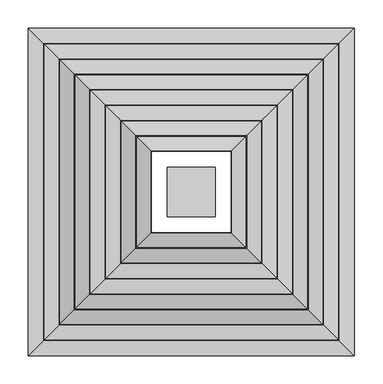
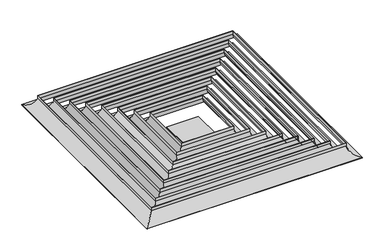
"""IFC4 building model written with IfcOpenShell, lengths in millimetres: air terminal geometry."""

from ifc_helpers import new_model, si_unit, frame, origin, place, context, project, spatial, polyline, ellipse_curve, outline, extrude, source, transform, mapped, element, save
from ifc_brep_helpers import plane_surface, cylinder_surface, revolved_surface, advanced_brep


def air_terminal_6e9eb5b7(model_context):
    return source(origin(), model_context, "Body", "SolidModel", [
        extrude(outline(polyline([(42.0, 335.8125856), (42.0, 249.1874144), (-42.0, 249.1874144), (-42.0, 335.8125856), (42.0, 335.8125856)])), frame((0.0, 0.0, 1.0), z_axis=(0.0, 0.0, 1.0), x_axis=(1.0, 0.0, 0.0)), (0.0, 0.0, 1.0), 1.0025269),
        advanced_brep(
        [(285.6874144, 5.5, 2.0025269), (285.6874144, 5.5, 1.0), (285.6874144, 579.5, 1.0), (285.6874144, 579.5, 2.0025269), (259.0, 32.1874144, 26.77286), (259.0, 552.8125856, 26.77286), (259.0, 32.1874144, 35.0), (259.0, 552.8125856, 35.0), (258.0, 33.1874144, 26.7), (258.0, 33.1874144, 35.0), (258.0, 551.8125856, 35.0), (258.0, 551.8125856, 26.7), (-285.6874144, 579.5, 1.0), (-285.6874144, 579.5, 2.0025269), (-259.0, 552.8125856, 26.77286), (-259.0, 552.8125856, 35.0), (-258.0, 551.8125856, 35.0), (-258.0, 551.8125856, 26.7), (-285.6874144, 5.5, 1.0), (-285.6874144, 5.5, 2.0025269), (-259.0, 32.1874144, 26.77286), (-259.0, 32.1874144, 35.0), (-258.0, 33.1874144, 35.0), (-258.0, 33.1874144, 26.7)],
        [
            (0, 1),
            (1, 2),
            (2, 3),
            (3, 0),
            (4, 0, ellipse_curve(frame((287.7874144, 3.4, 31.0266548), z_axis=(-0.7071067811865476, -0.7071067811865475, 0.0), x_axis=(-0.7071067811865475, 0.7071067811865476, 0.0)), 41.1536147, 29.1)),
            (3, 5, ellipse_curve(frame((287.7874144, 581.6, 31.0266548), z_axis=(-0.7071067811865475, 0.7071067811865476, 0.0), x_axis=(0.7071067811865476, 0.7071067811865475, 0.0)), 41.1536147, 29.1)),
            (5, 4),
            (6, 4),
            (5, 7),
            (7, 6),
            (8, 9),
            (9, 10),
            (10, 11),
            (11, 8),
            (1, 8, ellipse_curve(frame((287.7874144, 3.4, 31.0266548), z_axis=(0.7071067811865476, 0.7071067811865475, 0.0), x_axis=(0.7071067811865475, -0.7071067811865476, 0.0)), 42.5678282, 30.1)),
            (11, 2, ellipse_curve(frame((287.7874144, 581.6, 31.0266548), z_axis=(0.7071067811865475, -0.7071067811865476, 0.0), x_axis=(-0.7071067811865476, -0.7071067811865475, 0.0)), 42.5678282, 30.1)),
            (2, 12),
            (12, 13),
            (13, 3),
            (13, 14, ellipse_curve(frame((-287.7874144, 581.6, 31.0266548), z_axis=(-0.7071067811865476, -0.7071067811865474, 0.0), x_axis=(-0.7071067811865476, 0.7071067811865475, 0.0)), 41.1536147, 29.1)),
            (14, 5),
            (14, 15),
            (15, 7),
            (10, 16),
            (16, 17),
            (17, 11),
            (17, 12, ellipse_curve(frame((-287.7874144, 581.6, 31.0266548), z_axis=(0.7071067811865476, 0.7071067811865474, 0.0), x_axis=(0.7071067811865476, -0.7071067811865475, 0.0)), 42.5678282, 30.1)),
            (12, 18),
            (18, 19),
            (19, 13),
            (19, 20, ellipse_curve(frame((-287.7874144, 3.4, 31.0266548), z_axis=(0.7071067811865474, -0.7071067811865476, 0.0), x_axis=(-0.7071067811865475, -0.7071067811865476, 0.0)), 41.1536147, 29.1)),
            (20, 14),
            (20, 21),
            (21, 15),
            (16, 22),
            (22, 23),
            (23, 17),
            (23, 18, ellipse_curve(frame((-287.7874144, 3.4, 31.0266548), z_axis=(-0.7071067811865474, 0.7071067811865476, 0.0), x_axis=(0.7071067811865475, 0.7071067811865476, 0.0)), 42.5678282, 30.1)),
            (18, 1),
            (0, 19),
            (4, 20),
            (6, 21),
            (9, 22),
            (8, 23),
        ],
        [
            plane_surface(frame((285.6874144, 5.5, 1.0), z_axis=(1.0, 0.0, 0.0), x_axis=(0.0, 1.0, 0.0))),
            revolved_surface(polyline([(258.68741439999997, 610.7000000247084, 31.0266548), (258.68741439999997, -25.700000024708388, 31.0266548)]), (287.7874144, 33.1874144, 31.0266548), (0.0, 1.0, 0.0)),
            plane_surface(frame((259.0, 32.1874144, 26.77286), z_axis=(1.0, 0.0, 0.0), x_axis=(0.0, 1.0, 0.0))),
            plane_surface(frame((258.0, 33.1874144, 35.0), z_axis=(-1.0, 0.0, 0.0), x_axis=(0.0, 1.0, 0.0))),
            cylinder_surface(frame((287.7874144, 33.1874144, 31.0266548), z_axis=(0.0, -1.0, 0.0), x_axis=(-1.0, 0.0, 0.0)), 30.1),
            plane_surface(frame((285.6874144, 579.5, 1.0), z_axis=(0.0, 1.0, 0.0), x_axis=(-1.0, 0.0, 0.0))),
            revolved_surface(polyline([(-316.88741442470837, 552.5, 31.0266548), (316.88741442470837, 552.5, 31.0266548)]), (258.0, 581.6, 31.0266548), (-1.0, 0.0, 0.0)),
            plane_surface(frame((259.0, 552.8125856, 26.77286), z_axis=(0.0, 1.0, 0.0), x_axis=(-1.0, 0.0, 0.0))),
            plane_surface(frame((258.0, 551.8125856, 35.0), z_axis=(0.0, -1.0, 0.0), x_axis=(-1.0, 0.0, 0.0))),
            cylinder_surface(frame((258.0, 581.6, 31.0266548), z_axis=(1.0, 0.0, 0.0), x_axis=(0.0, -1.0, 0.0)), 30.1),
            plane_surface(frame((-285.6874144, 579.5, 1.0), z_axis=(-1.0, 0.0, 0.0), x_axis=(0.0, -1.0, 0.0))),
            revolved_surface(polyline([(-258.68741439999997, -25.7000000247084, 31.0266548), (-258.68741439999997, 610.7000000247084, 31.0266548)]), (-287.7874144, 551.8125856, 31.0266548), (0.0, -1.0, 0.0)),
            plane_surface(frame((-259.0, 552.8125856, 26.77286), z_axis=(-1.0, 0.0, 0.0), x_axis=(0.0, -1.0, 0.0))),
            plane_surface(frame((-258.0, 551.8125856, 35.0), z_axis=(1.0, 0.0, 0.0), x_axis=(0.0, -1.0, 0.0))),
            cylinder_surface(frame((-287.7874144, 551.8125856, 31.0266548), z_axis=(0.0, 1.0, 0.0), x_axis=(1.0, 0.0, 0.0)), 30.1),
            plane_surface(frame((-285.6874144, 5.5, 1.0), z_axis=(0.0, -1.0, 0.0), x_axis=(1.0, 0.0, 0.0))),
            revolved_surface(polyline([(316.88741442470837, 32.5, 31.0266548), (-316.88741442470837, 32.5, 31.0266548)]), (-258.0, 3.4, 31.0266548), (1.0, 0.0, 0.0)),
            plane_surface(frame((-259.0, 32.1874144, 26.77286), z_axis=(0.0, -1.0, 0.0), x_axis=(1.0, 0.0, 0.0))),
            plane_surface(frame((-259.0, 32.1874144, 35.0), z_axis=(0.0, 0.0, 1.0), x_axis=(1.0, 0.0, 0.0))),
            plane_surface(frame((-258.0, 33.1874144, 35.0), z_axis=(0.0, 1.0, 0.0), x_axis=(1.0, 0.0, 0.0))),
            cylinder_surface(frame((-258.0, 3.4, 31.0266548), z_axis=(-1.0, 0.0, 0.0), x_axis=(0.0, 1.0, 0.0)), 30.1),
        ],
        [
            (0, [[1, 2, 3, 4]]),
            (1, [[5, -4, 6, 7]]),
            (2, [[8, -7, 9, 10]]),
            (3, [[11, 12, 13, 14]]),
            (4, [[15, -14, 16, -2]]),
            (5, [[-3, 17, 18, 19]]),
            (6, [[-6, -19, 20, 21]]),
            (7, [[-9, -21, 22, 23]]),
            (8, [[-13, 24, 25, 26]]),
            (9, [[-16, -26, 27, -17]]),
            (10, [[-18, 28, 29, 30]]),
            (11, [[-20, -30, 31, 32]]),
            (12, [[-22, -32, 33, 34]]),
            (13, [[-25, 35, 36, 37]]),
            (14, [[-27, -37, 38, -28]]),
            (15, [[-29, 39, -1, 40]]),
            (16, [[-31, -40, -5, 41]]),
            (17, [[-33, -41, -8, 42]]),
            (18, [[-23, -34, -42, -10], [43, -35, -24, -12]]),
            (19, [[-36, -43, -11, 44]]),
            (20, [[-38, -44, -15, -39]]),
        ],
    ),
        advanced_brep(
        [(-258.6874144, 552.5, 2.0025269), (-258.6874144, 552.5, 1.0), (-258.6874144, 32.5, 1.0), (-258.6874144, 32.5, 2.0025269), (-232.0, 525.8125856, 26.77286), (-232.0, 59.1874144, 26.77286), (-232.0, 525.8125856, 35.0), (-232.0, 59.1874144, 35.0), (-231.0, 524.8125856, 26.7), (-231.0, 524.8125856, 35.0), (-231.0, 60.1874144, 35.0), (-231.0, 60.1874144, 26.7), (258.6874144, 32.5, 1.0), (258.6874144, 32.5, 2.0025269), (232.0, 59.1874144, 26.77286), (232.0, 59.1874144, 35.0), (231.0, 60.1874144, 35.0), (231.0, 60.1874144, 26.7), (258.6874144, 552.5, 1.0), (258.6874144, 552.5, 2.0025269), (232.0, 525.8125856, 26.77286), (232.0, 525.8125856, 35.0), (231.0, 524.8125856, 35.0), (231.0, 524.8125856, 26.7)],
        [
            (0, 1),
            (1, 2),
            (2, 3),
            (3, 0),
            (4, 0, ellipse_curve(frame((-260.7874144, 554.6, 31.0266548), z_axis=(0.7071067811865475, 0.7071067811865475, 0.0), x_axis=(0.7071067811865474, -0.7071067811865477, 0.0)), 41.1536147, 29.1)),
            (3, 5, ellipse_curve(frame((-260.7874144, 30.4, 31.0266548), z_axis=(0.7071067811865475, -0.7071067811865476, 0.0), x_axis=(-0.7071067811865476, -0.7071067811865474, 0.0)), 41.1536147, 29.1)),
            (5, 4),
            (6, 4),
            (5, 7),
            (7, 6),
            (8, 9),
            (9, 10),
            (10, 11),
            (11, 8),
            (1, 8, ellipse_curve(frame((-260.7874144, 554.6, 31.0266548), z_axis=(-0.7071067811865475, -0.7071067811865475, 0.0), x_axis=(-0.7071067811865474, 0.7071067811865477, 0.0)), 42.5678282, 30.1)),
            (11, 2, ellipse_curve(frame((-260.7874144, 30.4, 31.0266548), z_axis=(-0.7071067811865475, 0.7071067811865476, 0.0), x_axis=(0.7071067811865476, 0.7071067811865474, 0.0)), 42.5678282, 30.1)),
            (2, 12),
            (12, 13),
            (13, 3),
            (13, 14, ellipse_curve(frame((260.7874144, 30.4, 31.0266548), z_axis=(0.7071067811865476, 0.7071067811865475, 0.0), x_axis=(0.7071067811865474, -0.7071067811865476, 0.0)), 41.1536147, 29.1)),
            (14, 5),
            (14, 15),
            (15, 7),
            (10, 16),
            (16, 17),
            (17, 11),
            (17, 12, ellipse_curve(frame((260.7874144, 30.4, 31.0266548), z_axis=(-0.7071067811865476, -0.7071067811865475, 0.0), x_axis=(-0.7071067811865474, 0.7071067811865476, 0.0)), 42.5678282, 30.1)),
            (12, 18),
            (18, 19),
            (19, 13),
            (19, 20, ellipse_curve(frame((260.7874144, 554.6, 31.0266548), z_axis=(-0.7071067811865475, 0.7071067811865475, 0.0), x_axis=(0.7071067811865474, 0.7071067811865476, 0.0)), 41.1536147, 29.1)),
            (20, 14),
            (20, 21),
            (21, 15),
            (16, 22),
            (22, 23),
            (23, 17),
            (23, 18, ellipse_curve(frame((260.7874144, 554.6, 31.0266548), z_axis=(0.7071067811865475, -0.7071067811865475, 0.0), x_axis=(-0.7071067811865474, -0.7071067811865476, 0.0)), 42.5678282, 30.1)),
            (18, 1),
            (0, 19),
            (4, 20),
            (6, 21),
            (9, 22),
            (8, 23),
        ],
        [
            plane_surface(frame((-258.6874144, 552.5, 1.0), z_axis=(-1.0, 0.0, 0.0), x_axis=(0.0, -1.0, 0.0))),
            revolved_surface(polyline([(-231.6874144, 1.2999999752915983, 31.0266548), (-231.6874144, 583.7000000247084, 31.0266548)]), (-260.7874144, 524.8125856, 31.0266548), (0.0, -1.0, 0.0)),
            plane_surface(frame((-232.0, 525.8125856, 26.77286), z_axis=(-1.0, 0.0, 0.0), x_axis=(0.0, -1.0, 0.0))),
            plane_surface(frame((-231.0, 524.8125856, 35.0), z_axis=(1.0, 0.0, 0.0), x_axis=(0.0, -1.0, 0.0))),
            cylinder_surface(frame((-260.7874144, 524.8125856, 31.0266548), z_axis=(0.0, 1.0, 0.0), x_axis=(1.0, 0.0, 0.0)), 30.1),
            plane_surface(frame((-258.6874144, 32.5, 1.0), z_axis=(0.0, -1.0, 0.0), x_axis=(1.0, 0.0, 0.0))),
            revolved_surface(polyline([(289.88741442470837, 59.5, 31.0266548), (-289.88741442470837, 59.5, 31.0266548)]), (-231.0, 30.4, 31.0266548), (1.0, 0.0, 0.0)),
            plane_surface(frame((-232.0, 59.1874144, 26.77286), z_axis=(0.0, -1.0, 0.0), x_axis=(1.0, 0.0, 0.0))),
            plane_surface(frame((-231.0, 60.1874144, 35.0), z_axis=(0.0, 1.0, 0.0), x_axis=(1.0, 0.0, 0.0))),
            cylinder_surface(frame((-231.0, 30.4, 31.0266548), z_axis=(-1.0, 0.0, 0.0), x_axis=(0.0, 1.0, 0.0)), 30.1),
            plane_surface(frame((258.6874144, 32.5, 1.0), z_axis=(1.0, 0.0, 0.0), x_axis=(0.0, 1.0, 0.0))),
            revolved_surface(polyline([(231.6874144, 583.7000000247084, 31.0266548), (231.6874144, 1.2999999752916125, 31.0266548)]), (260.7874144, 60.1874144, 31.0266548), (0.0, 1.0, 0.0)),
            plane_surface(frame((232.0, 59.1874144, 26.77286), z_axis=(1.0, 0.0, 0.0), x_axis=(0.0, 1.0, 0.0))),
            plane_surface(frame((231.0, 60.1874144, 35.0), z_axis=(-1.0, 0.0, 0.0), x_axis=(0.0, 1.0, 0.0))),
            cylinder_surface(frame((260.7874144, 60.1874144, 31.0266548), z_axis=(0.0, -1.0, 0.0), x_axis=(-1.0, 0.0, 0.0)), 30.1),
            plane_surface(frame((258.6874144, 552.5, 1.0), z_axis=(0.0, 1.0, 0.0), x_axis=(-1.0, 0.0, 0.0))),
            revolved_surface(polyline([(-289.88741442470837, 525.5, 31.0266548), (289.88741442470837, 525.5, 31.0266548)]), (231.0, 554.6, 31.0266548), (-1.0, 0.0, 0.0)),
            plane_surface(frame((232.0, 525.8125856, 26.77286), z_axis=(0.0, 1.0, 0.0), x_axis=(-1.0, 0.0, 0.0))),
            plane_surface(frame((232.0, 525.8125856, 35.0), z_axis=(0.0, 0.0, 1.0), x_axis=(-1.0, 0.0, 0.0))),
            plane_surface(frame((231.0, 524.8125856, 35.0), z_axis=(0.0, -1.0, 0.0), x_axis=(-1.0, 0.0, 0.0))),
            cylinder_surface(frame((231.0, 554.6, 31.0266548), z_axis=(1.0, 0.0, 0.0), x_axis=(0.0, -1.0, 0.0)), 30.1),
        ],
        [
            (0, [[1, 2, 3, 4]]),
            (1, [[5, -4, 6, 7]]),
            (2, [[8, -7, 9, 10]]),
            (3, [[11, 12, 13, 14]]),
            (4, [[15, -14, 16, -2]]),
            (5, [[-3, 17, 18, 19]]),
            (6, [[-6, -19, 20, 21]]),
            (7, [[-9, -21, 22, 23]]),
            (8, [[-13, 24, 25, 26]]),
            (9, [[-16, -26, 27, -17]]),
            (10, [[-18, 28, 29, 30]]),
            (11, [[-20, -30, 31, 32]]),
            (12, [[-22, -32, 33, 34]]),
            (13, [[-25, 35, 36, 37]]),
            (14, [[-27, -37, 38, -28]]),
            (15, [[-29, 39, -1, 40]]),
            (16, [[-31, -40, -5, 41]]),
            (17, [[-33, -41, -8, 42]]),
            (18, [[-23, -34, -42, -10], [43, -35, -24, -12]]),
            (19, [[-36, -43, -11, 44]]),
            (20, [[-38, -44, -15, -39]]),
        ],
    ),
        advanced_brep(
        [(204.0, 497.8125856, 26.7), (231.6874144, 525.5, 1.0), (231.6874144, 59.5, 1.0), (204.0, 87.1874144, 26.7), (204.0, 497.8125856, 35.0), (204.0, 87.1874144, 35.0), (205.0, 498.8125856, 26.77286), (205.0, 498.8125856, 35.0), (205.0, 86.1874144, 35.0), (205.0, 86.1874144, 26.77286), (231.6874144, 525.5, 2.0025269), (231.6874144, 59.5, 2.0025269), (-231.6874144, 59.5, 1.0), (-204.0, 87.1874144, 26.7), (-204.0, 87.1874144, 35.0), (-205.0, 86.1874144, 35.0), (-205.0, 86.1874144, 26.77286), (-231.6874144, 59.5, 2.0025269), (-231.6874144, 525.5, 1.0), (-204.0, 497.8125856, 26.7), (-204.0, 497.8125856, 35.0), (-205.0, 498.8125856, 35.0), (-205.0, 498.8125856, 26.77286), (-231.6874144, 525.5, 2.0025269)],
        [
            (0, 1, ellipse_curve(frame((233.7874144, 527.6, 31.0266548), z_axis=(0.7071067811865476, -0.7071067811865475, 0.0), x_axis=(0.7071067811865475, 0.7071067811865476, 0.0)), 42.5678282, 30.1)),
            (1, 2),
            (2, 3, ellipse_curve(frame((233.7874144, 57.4, 31.0266548), z_axis=(0.7071067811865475, 0.7071067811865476, 0.0), x_axis=(-0.7071067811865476, 0.7071067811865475, 0.0)), 42.5678282, 30.1)),
            (3, 0),
            (4, 0),
            (3, 5),
            (5, 4),
            (6, 7),
            (7, 8),
            (8, 9),
            (9, 6),
            (10, 6, ellipse_curve(frame((233.7874144, 527.6, 31.0266548), z_axis=(-0.7071067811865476, 0.7071067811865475, 0.0), x_axis=(-0.7071067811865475, -0.7071067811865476, 0.0)), 41.1536147, 29.1)),
            (9, 11, ellipse_curve(frame((233.7874144, 57.4, 31.0266548), z_axis=(-0.7071067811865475, -0.7071067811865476, 0.0), x_axis=(0.7071067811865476, -0.7071067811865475, 0.0)), 41.1536147, 29.1)),
            (11, 10),
            (1, 10),
            (11, 2),
            (2, 12),
            (12, 13, ellipse_curve(frame((-233.7874144, 57.4, 31.0266548), z_axis=(0.7071067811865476, -0.7071067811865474, 0.0), x_axis=(0.7071067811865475, 0.7071067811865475, 0.0)), 42.5678282, 30.1)),
            (13, 3),
            (13, 14),
            (14, 5),
            (8, 15),
            (15, 16),
            (16, 9),
            (16, 17, ellipse_curve(frame((-233.7874144, 57.4, 31.0266548), z_axis=(-0.7071067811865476, 0.7071067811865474, 0.0), x_axis=(-0.7071067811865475, -0.7071067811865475, 0.0)), 41.1536147, 29.1)),
            (17, 11),
            (17, 12),
            (12, 18),
            (18, 19, ellipse_curve(frame((-233.7874144, 527.6, 31.0266548), z_axis=(-0.7071067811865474, -0.7071067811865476, 0.0), x_axis=(0.7071067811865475, -0.7071067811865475, 0.0)), 42.5678282, 30.1)),
            (19, 13),
            (19, 20),
            (20, 14),
            (15, 21),
            (21, 22),
            (22, 16),
            (22, 23, ellipse_curve(frame((-233.7874144, 527.6, 31.0266548), z_axis=(0.7071067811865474, 0.7071067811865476, 0.0), x_axis=(-0.7071067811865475, 0.7071067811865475, 0.0)), 41.1536147, 29.1)),
            (23, 17),
            (23, 18),
            (18, 1),
            (0, 19),
            (4, 20),
            (7, 21),
            (6, 22),
            (10, 23),
        ],
        [
            cylinder_surface(frame((233.7874144, 497.8125856, 31.0266548), z_axis=(0.0, 1.0, 0.0), x_axis=(1.0, 0.0, 0.0)), 30.1),
            plane_surface(frame((204.0, 497.8125856, 26.7), z_axis=(-1.0, 0.0, 0.0), x_axis=(0.0, -1.0, 0.0))),
            plane_surface(frame((205.0, 498.8125856, 35.0), z_axis=(1.0, 0.0, 0.0), x_axis=(0.0, -1.0, 0.0))),
            revolved_surface(polyline([(262.8874144, 28.2999999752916, 31.0266548), (262.8874144, 556.7000000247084, 31.0266548)]), (233.7874144, 497.8125856, 31.0266548), (0.0, -1.0, 0.0)),
            plane_surface(frame((231.6874144, 525.5, 2.0025269), z_axis=(1.0, 0.0, 0.0), x_axis=(0.0, -1.0, 0.0))),
            cylinder_surface(frame((204.0, 57.4, 31.0266548), z_axis=(1.0, 0.0, 0.0), x_axis=(0.0, -1.0, 0.0)), 30.1),
            plane_surface(frame((204.0, 87.1874144, 26.7), z_axis=(0.0, 1.0, 0.0), x_axis=(-1.0, 0.0, 0.0))),
            plane_surface(frame((205.0, 86.1874144, 35.0), z_axis=(0.0, -1.0, 0.0), x_axis=(-1.0, 0.0, 0.0))),
            revolved_surface(polyline([(-262.88741442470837, 28.299999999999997, 31.0266548), (262.88741442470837, 28.299999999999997, 31.0266548)]), (204.0, 57.4, 31.0266548), (-1.0, 0.0, 0.0)),
            plane_surface(frame((231.6874144, 59.5, 2.0025269), z_axis=(0.0, -1.0, 0.0), x_axis=(-1.0, 0.0, 0.0))),
            cylinder_surface(frame((-233.7874144, 87.1874144, 31.0266548), z_axis=(0.0, -1.0, 0.0), x_axis=(-1.0, 0.0, 0.0)), 30.1),
            plane_surface(frame((-204.0, 87.1874144, 26.7), z_axis=(1.0, 0.0, 0.0), x_axis=(0.0, 1.0, 0.0))),
            plane_surface(frame((-205.0, 86.1874144, 35.0), z_axis=(-1.0, 0.0, 0.0), x_axis=(0.0, 1.0, 0.0))),
            revolved_surface(polyline([(-262.8874144, 556.7000000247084, 31.0266548), (-262.8874144, 28.299999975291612, 31.0266548)]), (-233.7874144, 87.1874144, 31.0266548), (0.0, 1.0, 0.0)),
            plane_surface(frame((-231.6874144, 59.5, 2.0025269), z_axis=(-1.0, 0.0, 0.0), x_axis=(0.0, 1.0, 0.0))),
            cylinder_surface(frame((-204.0, 527.6, 31.0266548), z_axis=(-1.0, 0.0, 0.0), x_axis=(0.0, 1.0, 0.0)), 30.1),
            plane_surface(frame((-204.0, 497.8125856, 26.7), z_axis=(0.0, -1.0, 0.0), x_axis=(1.0, 0.0, 0.0))),
            plane_surface(frame((-204.0, 497.8125856, 35.0), z_axis=(0.0, 0.0, 1.0), x_axis=(1.0, 0.0, 0.0))),
            plane_surface(frame((-205.0, 498.8125856, 35.0), z_axis=(0.0, 1.0, 0.0), x_axis=(1.0, 0.0, 0.0))),
            revolved_surface(polyline([(262.88741442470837, 556.7, 31.0266548), (-262.88741442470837, 556.7, 31.0266548)]), (-204.0, 527.6, 31.0266548), (1.0, 0.0, 0.0)),
            plane_surface(frame((-231.6874144, 525.5, 2.0025269), z_axis=(0.0, 1.0, 0.0), x_axis=(1.0, 0.0, 0.0))),
        ],
        [
            (0, [[1, 2, 3, 4]]),
            (1, [[5, -4, 6, 7]]),
            (2, [[8, 9, 10, 11]]),
            (3, [[12, -11, 13, 14]]),
            (4, [[15, -14, 16, -2]]),
            (5, [[-3, 17, 18, 19]]),
            (6, [[-6, -19, 20, 21]]),
            (7, [[-10, 22, 23, 24]]),
            (8, [[-13, -24, 25, 26]]),
            (9, [[-16, -26, 27, -17]]),
            (10, [[-18, 28, 29, 30]]),
            (11, [[-20, -30, 31, 32]]),
            (12, [[-23, 33, 34, 35]]),
            (13, [[-25, -35, 36, 37]]),
            (14, [[-27, -37, 38, -28]]),
            (15, [[-29, 39, -1, 40]]),
            (16, [[-31, -40, -5, 41]]),
            (17, [[42, -33, -22, -9], [-21, -32, -41, -7]]),
            (18, [[-34, -42, -8, 43]]),
            (19, [[-36, -43, -12, 44]]),
            (20, [[-38, -44, -15, -39]]),
        ],
    ),
        advanced_brep(
        [(177.0, 470.8125856, 26.7), (204.6874144, 498.5, 1.0), (204.6874144, 86.5, 1.0), (177.0, 114.1874144, 26.7), (177.0, 470.8125856, 35.0), (177.0, 114.1874144, 35.0), (178.0, 471.8125856, 26.77286), (178.0, 471.8125856, 35.0), (178.0, 113.1874144, 35.0), (178.0, 113.1874144, 26.77286), (204.6874144, 498.5, 2.0025269), (204.6874144, 86.5, 2.0025269), (-204.6874144, 86.5, 1.0), (-177.0, 114.1874144, 26.7), (-177.0, 114.1874144, 35.0), (-178.0, 113.1874144, 35.0), (-178.0, 113.1874144, 26.77286), (-204.6874144, 86.5, 2.0025269), (-204.6874144, 498.5, 1.0), (-177.0, 470.8125856, 26.7), (-177.0, 470.8125856, 35.0), (-178.0, 471.8125856, 35.0), (-178.0, 471.8125856, 26.77286), (-204.6874144, 498.5, 2.0025269)],
        [
            (0, 1, ellipse_curve(frame((206.7874144, 500.6, 31.0266548), z_axis=(0.7071067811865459, -0.7071067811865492, 0.0), x_axis=(0.7071067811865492, 0.7071067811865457, 0.0)), 42.5678282, 30.1)),
            (1, 2),
            (2, 3, ellipse_curve(frame((206.7874144, 84.4, 31.0266548), z_axis=(0.7071067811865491, 0.7071067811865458, 0.0), x_axis=(-0.7071067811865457, 0.7071067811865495, 0.0)), 42.5678282, 30.1)),
            (3, 0),
            (4, 0),
            (3, 5),
            (5, 4),
            (6, 7),
            (7, 8),
            (8, 9),
            (9, 6),
            (10, 6, ellipse_curve(frame((206.7874144, 500.6, 31.0266548), z_axis=(-0.7071067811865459, 0.7071067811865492, 0.0), x_axis=(-0.7071067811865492, -0.7071067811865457, 0.0)), 41.1536147, 29.1)),
            (9, 11, ellipse_curve(frame((206.7874144, 84.4, 31.0266548), z_axis=(-0.7071067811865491, -0.7071067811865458, 0.0), x_axis=(0.7071067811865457, -0.7071067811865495, 0.0)), 41.1536147, 29.1)),
            (11, 10),
            (1, 10),
            (11, 2),
            (2, 12),
            (12, 13, ellipse_curve(frame((-206.7874144, 84.4, 31.0266548), z_axis=(0.7071067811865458, -0.7071067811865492, 0.0), x_axis=(0.7071067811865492, 0.7071067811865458, 0.0)), 42.5678282, 30.1)),
            (13, 3),
            (13, 14),
            (14, 5),
            (8, 15),
            (15, 16),
            (16, 9),
            (16, 17, ellipse_curve(frame((-206.7874144, 84.4, 31.0266548), z_axis=(-0.7071067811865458, 0.7071067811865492, 0.0), x_axis=(-0.7071067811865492, -0.7071067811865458, 0.0)), 41.1536147, 29.1)),
            (17, 11),
            (17, 12),
            (12, 18),
            (18, 19, ellipse_curve(frame((-206.7874144, 500.6, 31.0266548), z_axis=(-0.7071067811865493, -0.7071067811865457, 0.0), x_axis=(0.7071067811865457, -0.7071067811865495, 0.0)), 42.5678282, 30.1)),
            (19, 13),
            (19, 20),
            (20, 14),
            (15, 21),
            (21, 22),
            (22, 16),
            (22, 23, ellipse_curve(frame((-206.7874144, 500.6, 31.0266548), z_axis=(0.7071067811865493, 0.7071067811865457, 0.0), x_axis=(-0.7071067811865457, 0.7071067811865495, 0.0)), 41.1536147, 29.1)),
            (23, 17),
            (23, 18),
            (18, 1),
            (0, 19),
            (4, 20),
            (7, 21),
            (6, 22),
            (10, 23),
        ],
        [
            cylinder_surface(frame((206.7874144, 470.8125856, 31.0266548), z_axis=(0.0, 1.0, 0.0), x_axis=(1.0, 0.0, 0.0)), 30.1),
            plane_surface(frame((177.0, 470.8125856, 26.7), z_axis=(-1.0, 0.0, 0.0), x_axis=(0.0, -1.0, 0.0))),
            plane_surface(frame((178.0, 471.8125856, 35.0), z_axis=(1.0, 0.0, 0.0), x_axis=(0.0, -1.0, 0.0))),
            revolved_surface(polyline([(235.88741439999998, 55.29999997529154, 31.0266548), (235.88741439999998, 529.7000000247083, 31.0266548)]), (206.7874144, 470.8125856, 31.0266548), (0.0, -1.0, 0.0)),
            plane_surface(frame((204.6874144, 498.5, 2.0025269), z_axis=(1.0, 0.0, 0.0), x_axis=(0.0, -1.0, 0.0))),
            cylinder_surface(frame((177.0, 84.4, 31.0266548), z_axis=(1.0, 0.0, 0.0), x_axis=(0.0, -1.0, 0.0)), 30.1),
            plane_surface(frame((177.0, 114.1874144, 26.7), z_axis=(0.0, 1.0, 0.0), x_axis=(-1.0, 0.0, 0.0))),
            plane_surface(frame((178.0, 113.1874144, 35.0), z_axis=(0.0, -1.0, 0.0), x_axis=(-1.0, 0.0, 0.0))),
            revolved_surface(polyline([(-235.88741442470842, 55.300000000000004, 31.0266548), (235.8874144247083, 55.300000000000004, 31.0266548)]), (177.0, 84.4, 31.0266548), (-1.0, 0.0, 0.0)),
            plane_surface(frame((204.6874144, 86.5, 2.0025269), z_axis=(0.0, -1.0, 0.0), x_axis=(-1.0, 0.0, 0.0))),
            cylinder_surface(frame((-206.7874144, 114.1874144, 31.0266548), z_axis=(0.0, -1.0, 0.0), x_axis=(-1.0, 0.0, 0.0)), 30.1),
            plane_surface(frame((-177.0, 114.1874144, 26.7), z_axis=(1.0, 0.0, 0.0), x_axis=(0.0, 1.0, 0.0))),
            plane_surface(frame((-178.0, 113.1874144, 35.0), z_axis=(-1.0, 0.0, 0.0), x_axis=(0.0, 1.0, 0.0))),
            revolved_surface(polyline([(-235.88741439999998, 529.7000000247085, 31.0266548), (-235.88741439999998, 55.29999997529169, 31.0266548)]), (-206.7874144, 114.1874144, 31.0266548), (0.0, 1.0, 0.0)),
            plane_surface(frame((-204.6874144, 86.5, 2.0025269), z_axis=(-1.0, 0.0, 0.0), x_axis=(0.0, 1.0, 0.0))),
            cylinder_surface(frame((-177.0, 500.6, 31.0266548), z_axis=(-1.0, 0.0, 0.0), x_axis=(0.0, 1.0, 0.0)), 30.1),
            plane_surface(frame((-177.0, 470.8125856, 26.7), z_axis=(0.0, -1.0, 0.0), x_axis=(1.0, 0.0, 0.0))),
            plane_surface(frame((-177.0, 470.8125856, 35.0), z_axis=(0.0, 0.0, 1.0), x_axis=(1.0, 0.0, 0.0))),
            plane_surface(frame((-178.0, 471.8125856, 35.0), z_axis=(0.0, 1.0, 0.0), x_axis=(1.0, 0.0, 0.0))),
            revolved_surface(polyline([(235.88741442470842, 529.7, 31.0266548), (-235.8874144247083, 529.7, 31.0266548)]), (-177.0, 500.6, 31.0266548), (1.0, 0.0, 0.0)),
            plane_surface(frame((-204.6874144, 498.5, 2.0025269), z_axis=(0.0, 1.0, 0.0), x_axis=(1.0, 0.0, 0.0))),
        ],
        [
            (0, [[1, 2, 3, 4]]),
            (1, [[5, -4, 6, 7]]),
            (2, [[8, 9, 10, 11]]),
            (3, [[12, -11, 13, 14]]),
            (4, [[15, -14, 16, -2]]),
            (5, [[-3, 17, 18, 19]]),
            (6, [[-6, -19, 20, 21]]),
            (7, [[-10, 22, 23, 24]]),
            (8, [[-13, -24, 25, 26]]),
            (9, [[-16, -26, 27, -17]]),
            (10, [[-18, 28, 29, 30]]),
            (11, [[-20, -30, 31, 32]]),
            (12, [[-23, 33, 34, 35]]),
            (13, [[-25, -35, 36, 37]]),
            (14, [[-27, -37, 38, -28]]),
            (15, [[-29, 39, -1, 40]]),
            (16, [[-31, -40, -5, 41]]),
            (17, [[42, -33, -22, -9], [-21, -32, -41, -7]]),
            (18, [[-34, -42, -8, 43]]),
            (19, [[-36, -43, -12, 44]]),
            (20, [[-38, -44, -15, -39]]),
        ],
    ),
        advanced_brep(
        [(-150.5879226, 444.5, 2.0025269), (-150.5879226, 444.5, 1.0), (-150.5879226, 140.5994918, 1.0), (-150.5879226, 140.5994918, 2.0025269), (-123.9005082, 417.8125856, 26.77286), (-123.9005082, 167.2869062, 26.77286), (-123.9005082, 417.8125856, 35.0), (-123.9005082, 167.2869062, 35.0), (-122.9005082, 416.8125856, 26.7), (-122.9005082, 416.8125856, 35.0), (-122.9005082, 168.2869062, 35.0), (-122.9005082, 168.2869062, 26.7), (150.5879226, 140.5994918, 1.0), (150.5879226, 140.5994918, 2.0025269), (123.9005082, 167.2869062, 26.77286), (123.9005082, 167.2869062, 35.0), (122.9005082, 168.2869062, 35.0), (122.9005082, 168.2869062, 26.7), (150.5879226, 444.5, 1.0), (150.5879226, 444.5, 2.0025269), (123.9005082, 417.8125856, 26.77286), (123.9005082, 417.8125856, 35.0), (122.9005082, 416.8125856, 35.0), (122.9005082, 416.8125856, 26.7)],
        [
            (0, 1),
            (1, 2),
            (2, 3),
            (3, 0),
            (4, 0, ellipse_curve(frame((-152.6879226, 446.6, 31.0266548), z_axis=(0.7071067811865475, 0.7071067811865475, 0.0), x_axis=(0.7071067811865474, -0.7071067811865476, 0.0)), 41.1536147, 29.1)),
            (3, 5, ellipse_curve(frame((-152.6879226, 138.4994918, 31.0266548), z_axis=(0.7071067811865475, -0.7071067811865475, 0.0), x_axis=(-0.7071067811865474, -0.7071067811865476, 0.0)), 41.1536147, 29.1)),
            (5, 4),
            (6, 4),
            (5, 7),
            (7, 6),
            (8, 9),
            (9, 10),
            (10, 11),
            (11, 8),
            (1, 8, ellipse_curve(frame((-152.6879226, 446.6, 31.0266548), z_axis=(-0.7071067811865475, -0.7071067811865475, 0.0), x_axis=(-0.7071067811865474, 0.7071067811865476, 0.0)), 42.5678282, 30.1)),
            (11, 2, ellipse_curve(frame((-152.6879226, 138.4994918, 31.0266548), z_axis=(-0.7071067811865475, 0.7071067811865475, 0.0), x_axis=(0.7071067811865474, 0.7071067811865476, 0.0)), 42.5678282, 30.1)),
            (2, 12),
            (12, 13),
            (13, 3),
            (13, 14, ellipse_curve(frame((152.6879226, 138.4994918, 31.0266548), z_axis=(0.7071067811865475, 0.7071067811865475, 0.0), x_axis=(0.7071067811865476, -0.7071067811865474, 0.0)), 41.1536147, 29.1)),
            (14, 5),
            (14, 15),
            (15, 7),
            (10, 16),
            (16, 17),
            (17, 11),
            (17, 12, ellipse_curve(frame((152.6879226, 138.4994918, 31.0266548), z_axis=(-0.7071067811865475, -0.7071067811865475, 0.0), x_axis=(-0.7071067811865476, 0.7071067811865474, 0.0)), 42.5678282, 30.1)),
            (12, 18),
            (18, 19),
            (19, 13),
            (19, 20, ellipse_curve(frame((152.6879226, 446.6, 31.0266548), z_axis=(-0.7071067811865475, 0.7071067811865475, 0.0), x_axis=(0.7071067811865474, 0.7071067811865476, 0.0)), 41.1536147, 29.1)),
            (20, 14),
            (20, 21),
            (21, 15),
            (16, 22),
            (22, 23),
            (23, 17),
            (23, 18, ellipse_curve(frame((152.6879226, 446.6, 31.0266548), z_axis=(0.7071067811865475, -0.7071067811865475, 0.0), x_axis=(-0.7071067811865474, -0.7071067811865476, 0.0)), 42.5678282, 30.1)),
            (18, 1),
            (0, 19),
            (4, 20),
            (6, 21),
            (9, 22),
            (8, 23),
        ],
        [
            plane_surface(frame((-150.5879226, 444.5, 1.0), z_axis=(-1.0, 0.0, 0.0), x_axis=(0.0, -1.0, 0.0))),
            revolved_surface(polyline([(-123.58792260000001, 109.39949177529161, 31.0266548), (-123.58792260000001, 475.7000000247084, 31.0266548)]), (-152.6879226, 416.9120774, 31.0266548), (0.0, -1.0, 0.0)),
            plane_surface(frame((-123.9005082, 417.8125856, 26.77286), z_axis=(-1.0, 0.0, 0.0), x_axis=(0.0, -1.0, 0.0))),
            plane_surface(frame((-122.9005082, 416.8125856, 35.0), z_axis=(1.0, 0.0, 0.0), x_axis=(0.0, -1.0, 0.0))),
            cylinder_surface(frame((-152.6879226, 416.9120774, 31.0266548), z_axis=(0.0, 1.0, 0.0), x_axis=(1.0, 0.0, 0.0)), 30.1),
            plane_surface(frame((-150.5879226, 140.5994918, 1.0), z_axis=(0.0, -1.0, 0.0), x_axis=(1.0, 0.0, 0.0))),
            revolved_surface(polyline([(181.78792262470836, 167.59949179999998, 31.0266548), (-181.7879226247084, 167.59949179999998, 31.0266548)]), (-123.0, 138.4994918, 31.0266548), (1.0, 0.0, 0.0)),
            plane_surface(frame((-123.9005082, 167.2869062, 26.77286), z_axis=(0.0, -1.0, 0.0), x_axis=(1.0, 0.0, 0.0))),
            plane_surface(frame((-122.9005082, 168.2869062, 35.0), z_axis=(0.0, 1.0, 0.0), x_axis=(1.0, 0.0, 0.0))),
            cylinder_surface(frame((-123.0, 138.4994918, 31.0266548), z_axis=(-1.0, 0.0, 0.0), x_axis=(0.0, 1.0, 0.0)), 30.1),
            plane_surface(frame((150.5879226, 140.5994918, 1.0), z_axis=(1.0, 0.0, 0.0), x_axis=(0.0, 1.0, 0.0))),
            revolved_surface(polyline([(123.58792260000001, 475.7000000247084, 31.0266548), (123.58792260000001, 109.39949177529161, 31.0266548)]), (152.6879226, 168.1874144, 31.0266548), (0.0, 1.0, 0.0)),
            plane_surface(frame((123.9005082, 167.2869062, 26.77286), z_axis=(1.0, 0.0, 0.0), x_axis=(0.0, 1.0, 0.0))),
            plane_surface(frame((122.9005082, 168.2869062, 35.0), z_axis=(-1.0, 0.0, 0.0), x_axis=(0.0, 1.0, 0.0))),
            cylinder_surface(frame((152.6879226, 168.1874144, 31.0266548), z_axis=(0.0, -1.0, 0.0), x_axis=(-1.0, 0.0, 0.0)), 30.1),
            plane_surface(frame((150.5879226, 444.5, 1.0), z_axis=(0.0, 1.0, 0.0), x_axis=(-1.0, 0.0, 0.0))),
            revolved_surface(polyline([(-181.78792262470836, 417.5, 31.0266548), (181.7879226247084, 417.5, 31.0266548)]), (123.0, 446.6, 31.0266548), (-1.0, 0.0, 0.0)),
            plane_surface(frame((123.9005082, 417.8125856, 26.77286), z_axis=(0.0, 1.0, 0.0), x_axis=(-1.0, 0.0, 0.0))),
            plane_surface(frame((123.9005082, 417.8125856, 35.0), z_axis=(0.0, 0.0, 1.0), x_axis=(-1.0, 0.0, 0.0))),
            plane_surface(frame((122.9005082, 416.8125856, 35.0), z_axis=(0.0, -1.0, 0.0), x_axis=(-1.0, 0.0, 0.0))),
            cylinder_surface(frame((123.0, 446.6, 31.0266548), z_axis=(1.0, 0.0, 0.0), x_axis=(0.0, -1.0, 0.0)), 30.1),
        ],
        [
            (0, [[1, 2, 3, 4]]),
            (1, [[5, -4, 6, 7]]),
            (2, [[8, -7, 9, 10]]),
            (3, [[11, 12, 13, 14]]),
            (4, [[15, -14, 16, -2]]),
            (5, [[-3, 17, 18, 19]]),
            (6, [[-6, -19, 20, 21]]),
            (7, [[-9, -21, 22, 23]]),
            (8, [[-13, 24, 25, 26]]),
            (9, [[-16, -26, 27, -17]]),
            (10, [[-18, 28, 29, 30]]),
            (11, [[-20, -30, 31, 32]]),
            (12, [[-22, -32, 33, 34]]),
            (13, [[-25, 35, 36, 37]]),
            (14, [[-27, -37, 38, -28]]),
            (15, [[-29, 39, -1, 40]]),
            (16, [[-31, -40, -5, 41]]),
            (17, [[-33, -41, -8, 42]]),
            (18, [[-23, -34, -42, -10], [43, -35, -24, -12]]),
            (19, [[-36, -43, -11, 44]]),
            (20, [[-38, -44, -15, -39]]),
        ],
    ),
        advanced_brep(
        [(-177.6874144, 471.5, 2.0025269), (-177.6874144, 471.5, 1.0), (-177.6874144, 113.5, 1.0), (-177.6874144, 113.5, 2.0025269), (-151.0, 444.8125856, 26.77286), (-151.0, 140.1874144, 26.77286), (-151.0, 444.8125856, 35.0), (-151.0, 140.1874144, 35.0), (-150.0, 443.8125856, 26.7), (-150.0, 443.8125856, 35.0), (-150.0, 141.1874144, 35.0), (-150.0, 141.1874144, 26.7), (177.6874144, 113.5, 1.0), (177.6874144, 113.5, 2.0025269), (151.0, 140.1874144, 26.77286), (151.0, 140.1874144, 35.0), (150.0, 141.1874144, 35.0), (150.0, 141.1874144, 26.7), (177.6874144, 471.5, 1.0), (177.6874144, 471.5, 2.0025269), (151.0, 444.8125856, 26.77286), (151.0, 444.8125856, 35.0), (150.0, 443.8125856, 35.0), (150.0, 443.8125856, 26.7)],
        [
            (0, 1),
            (1, 2),
            (2, 3),
            (3, 0),
            (4, 0, ellipse_curve(frame((-179.7874144, 473.6, 31.0266548), z_axis=(0.7071067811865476, 0.7071067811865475, 0.0), x_axis=(0.7071067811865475, -0.7071067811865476, 0.0)), 41.1536147, 29.1)),
            (3, 5, ellipse_curve(frame((-179.7874144, 111.4, 31.0266548), z_axis=(0.7071067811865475, -0.7071067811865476, 0.0), x_axis=(-0.7071067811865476, -0.7071067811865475, 0.0)), 41.1536147, 29.1)),
            (5, 4),
            (6, 4),
            (5, 7),
            (7, 6),
            (8, 9),
            (9, 10),
            (10, 11),
            (11, 8),
            (1, 8, ellipse_curve(frame((-179.7874144, 473.6, 31.0266548), z_axis=(-0.7071067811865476, -0.7071067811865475, 0.0), x_axis=(-0.7071067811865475, 0.7071067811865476, 0.0)), 42.5678282, 30.1)),
            (11, 2, ellipse_curve(frame((-179.7874144, 111.4, 31.0266548), z_axis=(-0.7071067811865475, 0.7071067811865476, 0.0), x_axis=(0.7071067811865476, 0.7071067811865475, 0.0)), 42.5678282, 30.1)),
            (2, 12),
            (12, 13),
            (13, 3),
            (13, 14, ellipse_curve(frame((179.7874144, 111.4, 31.0266548), z_axis=(0.7071067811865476, 0.7071067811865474, 0.0), x_axis=(0.7071067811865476, -0.7071067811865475, 0.0)), 41.1536147, 29.1)),
            (14, 5),
            (14, 15),
            (15, 7),
            (10, 16),
            (16, 17),
            (17, 11),
            (17, 12, ellipse_curve(frame((179.7874144, 111.4, 31.0266548), z_axis=(-0.7071067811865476, -0.7071067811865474, 0.0), x_axis=(-0.7071067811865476, 0.7071067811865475, 0.0)), 42.5678282, 30.1)),
            (12, 18),
            (18, 19),
            (19, 13),
            (19, 20, ellipse_curve(frame((179.7874144, 473.6, 31.0266548), z_axis=(-0.7071067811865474, 0.7071067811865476, 0.0), x_axis=(0.7071067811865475, 0.7071067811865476, 0.0)), 41.1536147, 29.1)),
            (20, 14),
            (20, 21),
            (21, 15),
            (16, 22),
            (22, 23),
            (23, 17),
            (23, 18, ellipse_curve(frame((179.7874144, 473.6, 31.0266548), z_axis=(0.7071067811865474, -0.7071067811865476, 0.0), x_axis=(-0.7071067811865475, -0.7071067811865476, 0.0)), 42.5678282, 30.1)),
            (18, 1),
            (0, 19),
            (4, 20),
            (6, 21),
            (9, 22),
            (8, 23),
        ],
        [
            plane_surface(frame((-177.6874144, 471.5, 1.0), z_axis=(-1.0, 0.0, 0.0), x_axis=(0.0, -1.0, 0.0))),
            revolved_surface(polyline([(-150.6874144, 82.29999997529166, 31.0266548), (-150.6874144, 502.7000000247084, 31.0266548)]), (-179.7874144, 443.8125856, 31.0266548), (0.0, -1.0, 0.0)),
            plane_surface(frame((-151.0, 444.8125856, 26.77286), z_axis=(-1.0, 0.0, 0.0), x_axis=(0.0, -1.0, 0.0))),
            plane_surface(frame((-150.0, 443.8125856, 35.0), z_axis=(1.0, 0.0, 0.0), x_axis=(0.0, -1.0, 0.0))),
            cylinder_surface(frame((-179.7874144, 443.8125856, 31.0266548), z_axis=(0.0, 1.0, 0.0), x_axis=(1.0, 0.0, 0.0)), 30.1),
            plane_surface(frame((-177.6874144, 113.5, 1.0), z_axis=(0.0, -1.0, 0.0), x_axis=(1.0, 0.0, 0.0))),
            revolved_surface(polyline([(208.88741442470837, 140.5, 31.0266548), (-208.88741442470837, 140.5, 31.0266548)]), (-150.0, 111.4, 31.0266548), (1.0, 0.0, 0.0)),
            plane_surface(frame((-151.0, 140.1874144, 26.77286), z_axis=(0.0, -1.0, 0.0), x_axis=(1.0, 0.0, 0.0))),
            plane_surface(frame((-150.0, 141.1874144, 35.0), z_axis=(0.0, 1.0, 0.0), x_axis=(1.0, 0.0, 0.0))),
            cylinder_surface(frame((-150.0, 111.4, 31.0266548), z_axis=(-1.0, 0.0, 0.0), x_axis=(0.0, 1.0, 0.0)), 30.1),
            plane_surface(frame((177.6874144, 113.5, 1.0), z_axis=(1.0, 0.0, 0.0), x_axis=(0.0, 1.0, 0.0))),
            revolved_surface(polyline([(150.6874144, 502.7000000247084, 31.0266548), (150.6874144, 82.29999997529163, 31.0266548)]), (179.7874144, 141.1874144, 31.0266548), (0.0, 1.0, 0.0)),
            plane_surface(frame((151.0, 140.1874144, 26.77286), z_axis=(1.0, 0.0, 0.0), x_axis=(0.0, 1.0, 0.0))),
            plane_surface(frame((150.0, 141.1874144, 35.0), z_axis=(-1.0, 0.0, 0.0), x_axis=(0.0, 1.0, 0.0))),
            cylinder_surface(frame((179.7874144, 141.1874144, 31.0266548), z_axis=(0.0, -1.0, 0.0), x_axis=(-1.0, 0.0, 0.0)), 30.1),
            plane_surface(frame((177.6874144, 471.5, 1.0), z_axis=(0.0, 1.0, 0.0), x_axis=(-1.0, 0.0, 0.0))),
            revolved_surface(polyline([(-208.88741442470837, 444.5, 31.0266548), (208.88741442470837, 444.5, 31.0266548)]), (150.0, 473.6, 31.0266548), (-1.0, 0.0, 0.0)),
            plane_surface(frame((151.0, 444.8125856, 26.77286), z_axis=(0.0, 1.0, 0.0), x_axis=(-1.0, 0.0, 0.0))),
            plane_surface(frame((151.0, 444.8125856, 35.0), z_axis=(0.0, 0.0, 1.0), x_axis=(-1.0, 0.0, 0.0))),
            plane_surface(frame((150.0, 443.8125856, 35.0), z_axis=(0.0, -1.0, 0.0), x_axis=(-1.0, 0.0, 0.0))),
            cylinder_surface(frame((150.0, 473.6, 31.0266548), z_axis=(1.0, 0.0, 0.0), x_axis=(0.0, -1.0, 0.0)), 30.1),
        ],
        [
            (0, [[1, 2, 3, 4]]),
            (1, [[5, -4, 6, 7]]),
            (2, [[8, -7, 9, 10]]),
            (3, [[11, 12, 13, 14]]),
            (4, [[15, -14, 16, -2]]),
            (5, [[-3, 17, 18, 19]]),
            (6, [[-6, -19, 20, 21]]),
            (7, [[-9, -21, 22, 23]]),
            (8, [[-13, 24, 25, 26]]),
            (9, [[-16, -26, 27, -17]]),
            (10, [[-18, 28, 29, 30]]),
            (11, [[-20, -30, 31, 32]]),
            (12, [[-22, -32, 33, 34]]),
            (13, [[-25, 35, 36, 37]]),
            (14, [[-27, -37, 38, -28]]),
            (15, [[-29, 39, -1, 40]]),
            (16, [[-31, -40, -5, 41]]),
            (17, [[-33, -41, -8, 42]]),
            (18, [[-23, -34, -42, -10], [43, -35, -24, -12]]),
            (19, [[-36, -43, -11, 44]]),
            (20, [[-38, -44, -15, -39]]),
        ],
    ),
        advanced_brep(
        [(96.0, 389.8125856, 26.7), (123.6874144, 417.5, 1.0), (123.6874144, 167.5, 1.0), (96.0, 195.1874144, 26.7), (96.0, 389.8125856, 35.0), (96.0, 195.1874144, 35.0), (97.0, 390.8125856, 26.77286), (97.0, 390.8125856, 35.0), (97.0, 194.1874144, 35.0), (97.0, 194.1874144, 26.77286), (123.6874144, 417.5, 2.0025269), (123.6874144, 167.5, 2.0025269), (-123.6874144, 167.5, 1.0), (-96.0, 195.1874144, 26.7), (-96.0, 195.1874144, 35.0), (-97.0, 194.1874144, 35.0), (-97.0, 194.1874144, 26.77286), (-123.6874144, 167.5, 2.0025269), (-123.6874144, 417.5, 1.0), (-96.0, 389.8125856, 26.7), (-96.0, 389.8125856, 35.0), (-97.0, 390.8125856, 35.0), (-97.0, 390.8125856, 26.77286), (-123.6874144, 417.5, 2.0025269)],
        [
            (0, 1, ellipse_curve(frame((125.7874144, 419.6, 31.0266548), z_axis=(0.7071067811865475, -0.7071067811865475, 0.0), x_axis=(0.7071067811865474, 0.7071067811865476, 0.0)), 42.5678282, 30.1)),
            (1, 2),
            (2, 3, ellipse_curve(frame((125.7874144, 165.4, 31.0266548), z_axis=(0.7071067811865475, 0.7071067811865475, 0.0), x_axis=(-0.7071067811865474, 0.7071067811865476, 0.0)), 42.5678282, 30.1)),
            (3, 0),
            (4, 0),
            (3, 5),
            (5, 4),
            (6, 7),
            (7, 8),
            (8, 9),
            (9, 6),
            (10, 6, ellipse_curve(frame((125.7874144, 419.6, 31.0266548), z_axis=(-0.7071067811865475, 0.7071067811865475, 0.0), x_axis=(-0.7071067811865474, -0.7071067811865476, 0.0)), 41.1536147, 29.1)),
            (9, 11, ellipse_curve(frame((125.7874144, 165.4, 31.0266548), z_axis=(-0.7071067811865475, -0.7071067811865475, 0.0), x_axis=(0.7071067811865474, -0.7071067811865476, 0.0)), 41.1536147, 29.1)),
            (11, 10),
            (1, 10),
            (11, 2),
            (2, 12),
            (12, 13, ellipse_curve(frame((-125.7874144, 165.4, 31.0266548), z_axis=(0.7071067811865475, -0.7071067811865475, 0.0), x_axis=(0.7071067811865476, 0.7071067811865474, 0.0)), 42.5678282, 30.1)),
            (13, 3),
            (13, 14),
            (14, 5),
            (8, 15),
            (15, 16),
            (16, 9),
            (16, 17, ellipse_curve(frame((-125.7874144, 165.4, 31.0266548), z_axis=(-0.7071067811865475, 0.7071067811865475, 0.0), x_axis=(-0.7071067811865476, -0.7071067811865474, 0.0)), 41.1536147, 29.1)),
            (17, 11),
            (17, 12),
            (12, 18),
            (18, 19, ellipse_curve(frame((-125.7874144, 419.6, 31.0266548), z_axis=(-0.7071067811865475, -0.7071067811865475, 0.0), x_axis=(0.7071067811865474, -0.7071067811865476, 0.0)), 42.5678282, 30.1)),
            (19, 13),
            (19, 20),
            (20, 14),
            (15, 21),
            (21, 22),
            (22, 16),
            (22, 23, ellipse_curve(frame((-125.7874144, 419.6, 31.0266548), z_axis=(0.7071067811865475, 0.7071067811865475, 0.0), x_axis=(-0.7071067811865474, 0.7071067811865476, 0.0)), 41.1536147, 29.1)),
            (23, 17),
            (23, 18),
            (18, 1),
            (0, 19),
            (4, 20),
            (7, 21),
            (6, 22),
            (10, 23),
        ],
        [
            cylinder_surface(frame((125.7874144, 389.8125856, 31.0266548), z_axis=(0.0, 1.0, 0.0), x_axis=(1.0, 0.0, 0.0)), 30.1),
            plane_surface(frame((96.0, 389.8125856, 26.7), z_axis=(-1.0, 0.0, 0.0), x_axis=(0.0, -1.0, 0.0))),
            plane_surface(frame((97.0, 390.8125856, 35.0), z_axis=(1.0, 0.0, 0.0), x_axis=(0.0, -1.0, 0.0))),
            revolved_surface(polyline([(154.8874144, 136.29999997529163, 31.0266548), (154.8874144, 448.7000000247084, 31.0266548)]), (125.7874144, 389.8125856, 31.0266548), (0.0, -1.0, 0.0)),
            plane_surface(frame((123.6874144, 417.5, 2.0025269), z_axis=(1.0, 0.0, 0.0), x_axis=(0.0, -1.0, 0.0))),
            cylinder_surface(frame((96.0, 165.4, 31.0266548), z_axis=(1.0, 0.0, 0.0), x_axis=(0.0, -1.0, 0.0)), 30.1),
            plane_surface(frame((96.0, 195.1874144, 26.7), z_axis=(0.0, 1.0, 0.0), x_axis=(-1.0, 0.0, 0.0))),
            plane_surface(frame((97.0, 194.1874144, 35.0), z_axis=(0.0, -1.0, 0.0), x_axis=(-1.0, 0.0, 0.0))),
            revolved_surface(polyline([(-154.88741442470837, 136.3, 31.0266548), (154.88741442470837, 136.3, 31.0266548)]), (96.0, 165.4, 31.0266548), (-1.0, 0.0, 0.0)),
            plane_surface(frame((123.6874144, 167.5, 2.0025269), z_axis=(0.0, -1.0, 0.0), x_axis=(-1.0, 0.0, 0.0))),
            cylinder_surface(frame((-125.7874144, 195.1874144, 31.0266548), z_axis=(0.0, -1.0, 0.0), x_axis=(-1.0, 0.0, 0.0)), 30.1),
            plane_surface(frame((-96.0, 195.1874144, 26.7), z_axis=(1.0, 0.0, 0.0), x_axis=(0.0, 1.0, 0.0))),
            plane_surface(frame((-97.0, 194.1874144, 35.0), z_axis=(-1.0, 0.0, 0.0), x_axis=(0.0, 1.0, 0.0))),
            revolved_surface(polyline([(-154.8874144, 448.7000000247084, 31.0266548), (-154.8874144, 136.29999997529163, 31.0266548)]), (-125.7874144, 195.1874144, 31.0266548), (0.0, 1.0, 0.0)),
            plane_surface(frame((-123.6874144, 167.5, 2.0025269), z_axis=(-1.0, 0.0, 0.0), x_axis=(0.0, 1.0, 0.0))),
            cylinder_surface(frame((-96.0, 419.6, 31.0266548), z_axis=(-1.0, 0.0, 0.0), x_axis=(0.0, 1.0, 0.0)), 30.1),
            plane_surface(frame((-96.0, 389.8125856, 26.7), z_axis=(0.0, -1.0, 0.0), x_axis=(1.0, 0.0, 0.0))),
            plane_surface(frame((-96.0, 389.8125856, 35.0), z_axis=(0.0, 0.0, 1.0), x_axis=(1.0, 0.0, 0.0))),
            plane_surface(frame((-97.0, 390.8125856, 35.0), z_axis=(0.0, 1.0, 0.0), x_axis=(1.0, 0.0, 0.0))),
            revolved_surface(polyline([(154.88741442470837, 448.70000000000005, 31.0266548), (-154.88741442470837, 448.70000000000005, 31.0266548)]), (-96.0, 419.6, 31.0266548), (1.0, 0.0, 0.0)),
            plane_surface(frame((-123.6874144, 417.5, 2.0025269), z_axis=(0.0, 1.0, 0.0), x_axis=(1.0, 0.0, 0.0))),
        ],
        [
            (0, [[1, 2, 3, 4]]),
            (1, [[5, -4, 6, 7]]),
            (2, [[8, 9, 10, 11]]),
            (3, [[12, -11, 13, 14]]),
            (4, [[15, -14, 16, -2]]),
            (5, [[-3, 17, 18, 19]]),
            (6, [[-6, -19, 20, 21]]),
            (7, [[-10, 22, 23, 24]]),
            (8, [[-13, -24, 25, 26]]),
            (9, [[-16, -26, 27, -17]]),
            (10, [[-18, 28, 29, 30]]),
            (11, [[-20, -30, 31, 32]]),
            (12, [[-23, 33, 34, 35]]),
            (13, [[-25, -35, 36, 37]]),
            (14, [[-27, -37, 38, -28]]),
            (15, [[-29, 39, -1, 40]]),
            (16, [[-31, -40, -5, 41]]),
            (17, [[42, -33, -22, -9], [-21, -32, -41, -7]]),
            (18, [[-34, -42, -8, 43]]),
            (19, [[-36, -43, -12, 44]]),
            (20, [[-38, -44, -15, -39]]),
        ],
    ),
        advanced_brep(
        [(69.0, 362.8125856, 26.7), (96.6874144, 390.5, 1.0), (96.6874144, 194.5, 1.0), (69.0, 222.1874144, 26.7), (69.0, 362.8125856, 35.0), (69.0, 222.1874144, 35.0), (70.0, 363.8125856, 26.77286), (70.0, 363.8125856, 35.0), (70.0, 221.1874144, 35.0), (70.0, 221.1874144, 26.77286), (96.6874144, 390.5, 2.0025269), (96.6874144, 194.5, 2.0025269), (-96.6874144, 194.5, 1.0), (-69.0, 222.1874144, 26.7), (-69.0, 222.1874144, 35.0), (-70.0, 221.1874144, 35.0), (-70.0, 221.1874144, 26.77286), (-96.6874144, 194.5, 2.0025269), (-96.6874144, 390.5, 1.0), (-69.0, 362.8125856, 26.7), (-69.0, 362.8125856, 35.0), (-70.0, 363.8125856, 35.0), (-70.0, 363.8125856, 26.77286), (-96.6874144, 390.5, 2.0025269)],
        [
            (0, 1, ellipse_curve(frame((98.7874144, 392.6, 31.0266548), z_axis=(0.7071067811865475, -0.7071067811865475, 0.0), x_axis=(0.7071067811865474, 0.7071067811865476, 0.0)), 42.5678282, 30.1)),
            (1, 2),
            (2, 3, ellipse_curve(frame((98.7874144, 192.4, 31.0266548), z_axis=(0.7071067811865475, 0.7071067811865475, 0.0), x_axis=(-0.7071067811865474, 0.7071067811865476, 0.0)), 42.5678282, 30.1)),
            (3, 0),
            (4, 0),
            (3, 5),
            (5, 4),
            (6, 7),
            (7, 8),
            (8, 9),
            (9, 6),
            (10, 6, ellipse_curve(frame((98.7874144, 392.6, 31.0266548), z_axis=(-0.7071067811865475, 0.7071067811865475, 0.0), x_axis=(-0.7071067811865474, -0.7071067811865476, 0.0)), 41.1536147, 29.1)),
            (9, 11, ellipse_curve(frame((98.7874144, 192.4, 31.0266548), z_axis=(-0.7071067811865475, -0.7071067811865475, 0.0), x_axis=(0.7071067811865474, -0.7071067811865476, 0.0)), 41.1536147, 29.1)),
            (11, 10),
            (1, 10),
            (11, 2),
            (2, 12),
            (12, 13, ellipse_curve(frame((-98.7874144, 192.4, 31.0266548), z_axis=(0.7071067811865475, -0.7071067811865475, 0.0), x_axis=(0.7071067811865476, 0.7071067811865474, 0.0)), 42.5678282, 30.1)),
            (13, 3),
            (13, 14),
            (14, 5),
            (8, 15),
            (15, 16),
            (16, 9),
            (16, 17, ellipse_curve(frame((-98.7874144, 192.4, 31.0266548), z_axis=(-0.7071067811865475, 0.7071067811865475, 0.0), x_axis=(-0.7071067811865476, -0.7071067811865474, 0.0)), 41.1536147, 29.1)),
            (17, 11),
            (17, 12),
            (12, 18),
            (18, 19, ellipse_curve(frame((-98.7874144, 392.6, 31.0266548), z_axis=(-0.7071067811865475, -0.7071067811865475, 0.0), x_axis=(0.7071067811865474, -0.7071067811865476, 0.0)), 42.5678282, 30.1)),
            (19, 13),
            (19, 20),
            (20, 14),
            (15, 21),
            (21, 22),
            (22, 16),
            (22, 23, ellipse_curve(frame((-98.7874144, 392.6, 31.0266548), z_axis=(0.7071067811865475, 0.7071067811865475, 0.0), x_axis=(-0.7071067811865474, 0.7071067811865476, 0.0)), 41.1536147, 29.1)),
            (23, 17),
            (23, 18),
            (18, 1),
            (0, 19),
            (4, 20),
            (7, 21),
            (6, 22),
            (10, 23),
        ],
        [
            cylinder_surface(frame((98.7874144, 362.8125856, 31.0266548), z_axis=(0.0, 1.0, 0.0), x_axis=(1.0, 0.0, 0.0)), 30.1),
            plane_surface(frame((69.0, 362.8125856, 26.7), z_axis=(-1.0, 0.0, 0.0), x_axis=(0.0, -1.0, 0.0))),
            plane_surface(frame((70.0, 363.8125856, 35.0), z_axis=(1.0, 0.0, 0.0), x_axis=(0.0, -1.0, 0.0))),
            revolved_surface(polyline([(127.88741440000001, 163.29999997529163, 31.0266548), (127.88741440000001, 421.7000000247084, 31.0266548)]), (98.7874144, 362.8125856, 31.0266548), (0.0, -1.0, 0.0)),
            plane_surface(frame((96.6874144, 390.5, 2.0025269), z_axis=(1.0, 0.0, 0.0), x_axis=(0.0, -1.0, 0.0))),
            cylinder_surface(frame((69.0, 192.4, 31.0266548), z_axis=(1.0, 0.0, 0.0), x_axis=(0.0, -1.0, 0.0)), 30.1),
            plane_surface(frame((69.0, 222.1874144, 26.7), z_axis=(0.0, 1.0, 0.0), x_axis=(-1.0, 0.0, 0.0))),
            plane_surface(frame((70.0, 221.1874144, 35.0), z_axis=(0.0, -1.0, 0.0), x_axis=(-1.0, 0.0, 0.0))),
            revolved_surface(polyline([(-127.88741442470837, 163.3, 31.0266548), (127.88741442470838, 163.3, 31.0266548)]), (69.0, 192.4, 31.0266548), (-1.0, 0.0, 0.0)),
            plane_surface(frame((96.6874144, 194.5, 2.0025269), z_axis=(0.0, -1.0, 0.0), x_axis=(-1.0, 0.0, 0.0))),
            cylinder_surface(frame((-98.7874144, 222.1874144, 31.0266548), z_axis=(0.0, -1.0, 0.0), x_axis=(-1.0, 0.0, 0.0)), 30.1),
            plane_surface(frame((-69.0, 222.1874144, 26.7), z_axis=(1.0, 0.0, 0.0), x_axis=(0.0, 1.0, 0.0))),
            plane_surface(frame((-70.0, 221.1874144, 35.0), z_axis=(-1.0, 0.0, 0.0), x_axis=(0.0, 1.0, 0.0))),
            revolved_surface(polyline([(-127.88741440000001, 421.7000000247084, 31.0266548), (-127.88741440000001, 163.29999997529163, 31.0266548)]), (-98.7874144, 222.1874144, 31.0266548), (0.0, 1.0, 0.0)),
            plane_surface(frame((-96.6874144, 194.5, 2.0025269), z_axis=(-1.0, 0.0, 0.0), x_axis=(0.0, 1.0, 0.0))),
            cylinder_surface(frame((-69.0, 392.6, 31.0266548), z_axis=(-1.0, 0.0, 0.0), x_axis=(0.0, 1.0, 0.0)), 30.1),
            plane_surface(frame((-69.0, 362.8125856, 26.7), z_axis=(0.0, -1.0, 0.0), x_axis=(1.0, 0.0, 0.0))),
            plane_surface(frame((-69.0, 362.8125856, 35.0), z_axis=(0.0, 0.0, 1.0), x_axis=(1.0, 0.0, 0.0))),
            plane_surface(frame((-70.0, 363.8125856, 35.0), z_axis=(0.0, 1.0, 0.0), x_axis=(1.0, 0.0, 0.0))),
            revolved_surface(polyline([(127.88741442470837, 421.70000000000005, 31.0266548), (-127.88741442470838, 421.70000000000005, 31.0266548)]), (-69.0, 392.6, 31.0266548), (1.0, 0.0, 0.0)),
            plane_surface(frame((-96.6874144, 390.5, 2.0025269), z_axis=(0.0, 1.0, 0.0), x_axis=(1.0, 0.0, 0.0))),
        ],
        [
            (0, [[1, 2, 3, 4]]),
            (1, [[5, -4, 6, 7]]),
            (2, [[8, 9, 10, 11]]),
            (3, [[12, -11, 13, 14]]),
            (4, [[15, -14, 16, -2]]),
            (5, [[-3, 17, 18, 19]]),
            (6, [[-6, -19, 20, 21]]),
            (7, [[-10, 22, 23, 24]]),
            (8, [[-13, -24, 25, 26]]),
            (9, [[-16, -26, 27, -17]]),
            (10, [[-18, 28, 29, 30]]),
            (11, [[-20, -30, 31, 32]]),
            (12, [[-23, 33, 34, 35]]),
            (13, [[-25, -35, 36, 37]]),
            (14, [[-27, -37, 38, -28]]),
            (15, [[-29, 39, -1, 40]]),
            (16, [[-31, -40, -5, 41]]),
            (17, [[42, -33, -22, -9], [-21, -32, -41, -7]]),
            (18, [[-34, -42, -8, 43]]),
            (19, [[-36, -43, -12, 44]]),
            (20, [[-38, -44, -15, -39]]),
        ],
    ),
    ])


if __name__ == "__main__":
    model = new_model("IFC4")
    model_context = context("Model", 3, world=origin())
    ifc_project = project(units=[si_unit("LENGTHUNIT", "METRE", prefix="MILLI")], contexts=[model_context])
    site = spatial("IfcSite", under=ifc_project)
    building = spatial("IfcBuilding", under=site)
    placement = place(None, origin())
    air_terminal_shape = air_terminal_6e9eb5b7(model_context)
    element("IfcAirTerminal", 1, at=placement, inside=building, context=model_context, shape_type="MappedRepresentation", body=[
        mapped(air_terminal_shape, transform((0.0, 0.0, 0.0), x_axis=(1.0, 0.0, 0.0), y_axis=(0.0, 1.0, 0.0), z_axis=(0.0, 0.0, 1.0))),
    ])
    save(model, "model.ifc")
